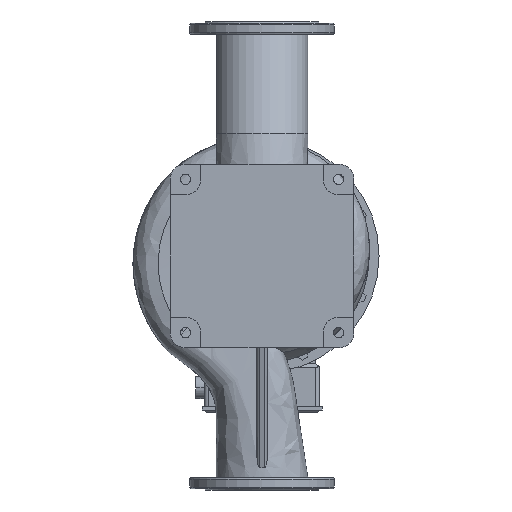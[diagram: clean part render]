
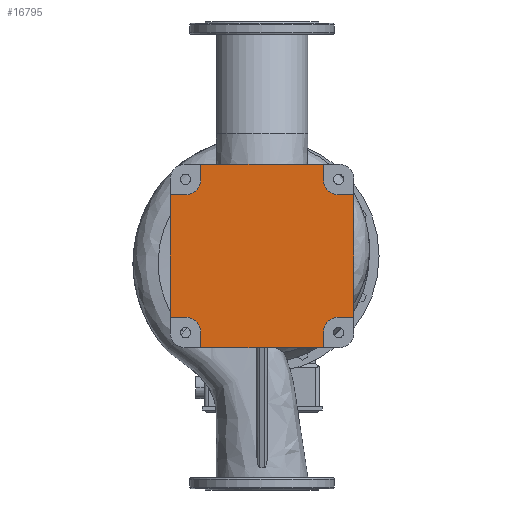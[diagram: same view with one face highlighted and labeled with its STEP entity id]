
A CAD part, front view. The second image highlights one B-rep face of the part: STEP entity #16795.
In plain terms, the highlighted planar face has unit normal (0, -1, 0).
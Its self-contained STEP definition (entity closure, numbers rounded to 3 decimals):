
#174 = CARTESIAN_POINT ( 'NONE',  ( -180., -265., 144. ) ) ;
#190 = CIRCLE ( 'NONE', #33882, 36. ) ;
#1358 = LINE ( 'NONE', #23151, #12193 ) ;
#1686 = CARTESIAN_POINT ( 'NONE',  ( -144., -265., 180. ) ) ;
#1915 = LINE ( 'NONE', #5132, #3889 ) ;
#2346 = AXIS2_PLACEMENT_3D ( 'NONE', #7268, #4777, #17829 ) ;
#2736 = EDGE_CURVE ( 'NONE', #19969, #16376, #9065, .T. ) ;
#2941 = ORIENTED_EDGE ( 'NONE', *, *, #8583, .T. ) ;
#3211 = LINE ( 'NONE', #174, #14093 ) ;
#3522 = CARTESIAN_POINT ( 'NONE',  ( -144., -265., 180. ) ) ;
#3541 = CIRCLE ( 'NONE', #20060, 36. ) ;
#3889 = VECTOR ( 'NONE', #28911, 1000. ) ;
#3977 = ORIENTED_EDGE ( 'NONE', *, *, #28497, .T. ) ;
#4225 = VECTOR ( 'NONE', #25136, 1000. ) ;
#4613 = LINE ( 'NONE', #4804, #28386 ) ;
#4625 = VERTEX_POINT ( 'NONE', #12575 ) ;
#4777 = DIRECTION ( 'NONE',  ( 0., 1., 0. ) ) ;
#4804 = CARTESIAN_POINT ( 'NONE',  ( 180., -265., 144. ) ) ;
#5055 = AXIS2_PLACEMENT_3D ( 'NONE', #15198, #33798, #9488 ) ;
#5132 = CARTESIAN_POINT ( 'NONE',  ( -216., -265., -144. ) ) ;
#5285 = VERTEX_POINT ( 'NONE', #23054 ) ;
#5411 = DIRECTION ( 'NONE',  ( 1., 0., 0. ) ) ;
#5587 = VECTOR ( 'NONE', #10313, 1000. ) ;
#5761 = CARTESIAN_POINT ( 'NONE',  ( -180., -265., 144. ) ) ;
#5792 = VERTEX_POINT ( 'NONE', #15099 ) ;
#5884 = DIRECTION ( 'NONE',  ( 0., 1., 0. ) ) ;
#6183 = DIRECTION ( 'NONE',  ( 0., 0., 1. ) ) ;
#6893 = ORIENTED_EDGE ( 'NONE', *, *, #2736, .T. ) ;
#7268 = CARTESIAN_POINT ( 'NONE',  ( -180., -265., 180. ) ) ;
#7523 = VECTOR ( 'NONE', #5411, 1000. ) ;
#7763 = ORIENTED_EDGE ( 'NONE', *, *, #33728, .T. ) ;
#7870 = ORIENTED_EDGE ( 'NONE', *, *, #15932, .T. ) ;
#8109 = VERTEX_POINT ( 'NONE', #26811 ) ;
#8326 = EDGE_CURVE ( 'NONE', #12735, #18668, #26887, .T. ) ;
#8392 = DIRECTION ( 'NONE',  ( -1., 0., 0. ) ) ;
#8583 = EDGE_CURVE ( 'NONE', #18668, #32495, #14669, .T. ) ;
#8639 = VECTOR ( 'NONE', #35275, 1000. ) ;
#9065 = LINE ( 'NONE', #3522, #20160 ) ;
#9488 = DIRECTION ( 'NONE',  ( 0., 0., 1. ) ) ;
#9935 = ORIENTED_EDGE ( 'NONE', *, *, #18948, .T. ) ;
#10313 = DIRECTION ( 'NONE',  ( 0., 0., -1. ) ) ;
#10503 = CARTESIAN_POINT ( 'NONE',  ( -144., -265., -180. ) ) ;
#10663 = EDGE_CURVE ( 'NONE', #22307, #5285, #14843, .T. ) ;
#10963 = VECTOR ( 'NONE', #14506, 1000. ) ;
#11055 = ORIENTED_EDGE ( 'NONE', *, *, #10663, .T. ) ;
#11987 = FACE_OUTER_BOUND ( 'NONE', #33924, .T. ) ;
#12067 = DIRECTION ( 'NONE',  ( 0., 1., 0. ) ) ;
#12193 = VECTOR ( 'NONE', #14410, 1000. ) ;
#12575 = CARTESIAN_POINT ( 'NONE',  ( 144., -265., 216. ) ) ;
#12728 = DIRECTION ( 'NONE',  ( 0., 0., 1. ) ) ;
#12735 = VERTEX_POINT ( 'NONE', #17415 ) ;
#13833 = DIRECTION ( 'NONE',  ( 0., 0., 1. ) ) ;
#14093 = VECTOR ( 'NONE', #8392, 1000. ) ;
#14288 = VERTEX_POINT ( 'NONE', #27287 ) ;
#14410 = DIRECTION ( 'NONE',  ( 0., 0., 1. ) ) ;
#14506 = DIRECTION ( 'NONE',  ( 0., 0., 1. ) ) ;
#14669 = LINE ( 'NONE', #24366, #8639 ) ;
#14681 = LINE ( 'NONE', #14849, #10963 ) ;
#14843 = LINE ( 'NONE', #25740, #33143 ) ;
#14849 = CARTESIAN_POINT ( 'NONE',  ( 144., -265., -180. ) ) ;
#15067 = CARTESIAN_POINT ( 'NONE',  ( -180., -265., -180. ) ) ;
#15099 = CARTESIAN_POINT ( 'NONE',  ( 144., -265., 180. ) ) ;
#15198 = CARTESIAN_POINT ( 'NONE',  ( -180., -265., -180. ) ) ;
#15350 = ORIENTED_EDGE ( 'NONE', *, *, #30153, .T. ) ;
#15932 = EDGE_CURVE ( 'NONE', #14288, #28830, #1915, .T. ) ;
#15970 = EDGE_CURVE ( 'NONE', #8109, #22307, #21034, .T. ) ;
#16376 = VERTEX_POINT ( 'NONE', #1686 ) ;
#16795 = ADVANCED_FACE ( 'NONE', ( #11987 ), #22888, .F. ) ;
#16849 = CARTESIAN_POINT ( 'NONE',  ( -180., -265., -144. ) ) ;
#17079 = ORIENTED_EDGE ( 'NONE', *, *, #15970, .T. ) ;
#17415 = CARTESIAN_POINT ( 'NONE',  ( 144., -265., -180. ) ) ;
#17491 = DIRECTION ( 'NONE',  ( 0., 0., 1. ) ) ;
#17829 = DIRECTION ( 'NONE',  ( 0., 0., 1. ) ) ;
#18668 = VERTEX_POINT ( 'NONE', #20350 ) ;
#18948 = EDGE_CURVE ( 'NONE', #4625, #19969, #32840, .T. ) ;
#19049 = ORIENTED_EDGE ( 'NONE', *, *, #20308, .T. ) ;
#19119 = VECTOR ( 'NONE', #13833, 1000. ) ;
#19247 = CARTESIAN_POINT ( 'NONE',  ( -144., -265., 216. ) ) ;
#19969 = VERTEX_POINT ( 'NONE', #30254 ) ;
#20060 = AXIS2_PLACEMENT_3D ( 'NONE', #30673, #12067, #6183 ) ;
#20072 = VERTEX_POINT ( 'NONE', #24368 ) ;
#20160 = VECTOR ( 'NONE', #31053, 1000. ) ;
#20308 = EDGE_CURVE ( 'NONE', #20072, #8109, #190, .T. ) ;
#20350 = CARTESIAN_POINT ( 'NONE',  ( 180., -265., -144. ) ) ;
#21034 = LINE ( 'NONE', #10503, #5587 ) ;
#21384 = CARTESIAN_POINT ( 'NONE',  ( -144., -265., -216. ) ) ;
#21718 = ORIENTED_EDGE ( 'NONE', *, *, #22159, .T. ) ;
#22159 = EDGE_CURVE ( 'NONE', #16376, #35178, #24595, .T. ) ;
#22307 = VERTEX_POINT ( 'NONE', #21384 ) ;
#22445 = EDGE_CURVE ( 'NONE', #29064, #5792, #3541, .T. ) ;
#22888 = PLANE ( 'NONE',  #5055 ) ;
#23054 = CARTESIAN_POINT ( 'NONE',  ( 144., -265., -216. ) ) ;
#23151 = CARTESIAN_POINT ( 'NONE',  ( 216., -265., 144. ) ) ;
#24366 = CARTESIAN_POINT ( 'NONE',  ( 180., -265., -144. ) ) ;
#24368 = CARTESIAN_POINT ( 'NONE',  ( -180., -265., -144. ) ) ;
#24595 = CIRCLE ( 'NONE', #2346, 36. ) ;
#24997 = EDGE_CURVE ( 'NONE', #32495, #31157, #1358, .T. ) ;
#25136 = DIRECTION ( 'NONE',  ( -1., 0., 0. ) ) ;
#25234 = EDGE_CURVE ( 'NONE', #5792, #4625, #27406, .T. ) ;
#25740 = CARTESIAN_POINT ( 'NONE',  ( 144., -265., -216. ) ) ;
#26416 = DIRECTION ( 'NONE',  ( -1., 0., 0. ) ) ;
#26772 = ORIENTED_EDGE ( 'NONE', *, *, #22445, .T. ) ;
#26811 = CARTESIAN_POINT ( 'NONE',  ( -144., -265., -180. ) ) ;
#26887 = CIRCLE ( 'NONE', #34322, 36. ) ;
#27123 = CARTESIAN_POINT ( 'NONE',  ( 216., -265., -144. ) ) ;
#27287 = CARTESIAN_POINT ( 'NONE',  ( -216., -265., 144. ) ) ;
#27406 = LINE ( 'NONE', #35112, #19119 ) ;
#27475 = EDGE_CURVE ( 'NONE', #35178, #14288, #3211, .T. ) ;
#28265 = DIRECTION ( 'NONE',  ( 1., 0., 0. ) ) ;
#28386 = VECTOR ( 'NONE', #26416, 1000. ) ;
#28497 = EDGE_CURVE ( 'NONE', #31157, #29064, #4613, .T. ) ;
#28669 = CARTESIAN_POINT ( 'NONE',  ( -216., -265., -144. ) ) ;
#28830 = VERTEX_POINT ( 'NONE', #28669 ) ;
#28911 = DIRECTION ( 'NONE',  ( 0., 0., -1. ) ) ;
#29064 = VERTEX_POINT ( 'NONE', #34208 ) ;
#29815 = ORIENTED_EDGE ( 'NONE', *, *, #25234, .T. ) ;
#30153 = EDGE_CURVE ( 'NONE', #5285, #12735, #14681, .T. ) ;
#30254 = CARTESIAN_POINT ( 'NONE',  ( -144., -265., 216. ) ) ;
#30284 = ORIENTED_EDGE ( 'NONE', *, *, #27475, .T. ) ;
#30375 = CARTESIAN_POINT ( 'NONE',  ( 180., -265., -180. ) ) ;
#30673 = CARTESIAN_POINT ( 'NONE',  ( 180., -265., 180. ) ) ;
#30968 = ORIENTED_EDGE ( 'NONE', *, *, #24997, .T. ) ;
#31053 = DIRECTION ( 'NONE',  ( 0., 0., -1. ) ) ;
#31157 = VERTEX_POINT ( 'NONE', #33460 ) ;
#32495 = VERTEX_POINT ( 'NONE', #27123 ) ;
#32571 = ORIENTED_EDGE ( 'NONE', *, *, #8326, .T. ) ;
#32765 = LINE ( 'NONE', #16849, #7523 ) ;
#32840 = LINE ( 'NONE', #19247, #4225 ) ;
#33143 = VECTOR ( 'NONE', #28265, 1000. ) ;
#33460 = CARTESIAN_POINT ( 'NONE',  ( 216., -265., 144. ) ) ;
#33728 = EDGE_CURVE ( 'NONE', #28830, #20072, #32765, .T. ) ;
#33798 = DIRECTION ( 'NONE',  ( 0., 1., 0. ) ) ;
#33882 = AXIS2_PLACEMENT_3D ( 'NONE', #15067, #34182, #12728 ) ;
#33924 = EDGE_LOOP ( 'NONE', ( #19049, #17079, #11055, #15350, #32571, #2941, #30968, #3977, #26772, #29815, #9935, #6893, #21718, #30284, #7870, #7763 ) ) ;
#34182 = DIRECTION ( 'NONE',  ( 0., 1., 0. ) ) ;
#34208 = CARTESIAN_POINT ( 'NONE',  ( 180., -265., 144. ) ) ;
#34322 = AXIS2_PLACEMENT_3D ( 'NONE', #30375, #5884, #17491 ) ;
#35112 = CARTESIAN_POINT ( 'NONE',  ( 144., -265., 180. ) ) ;
#35178 = VERTEX_POINT ( 'NONE', #5761 ) ;
#35275 = DIRECTION ( 'NONE',  ( 1., 0., 0. ) ) ;
